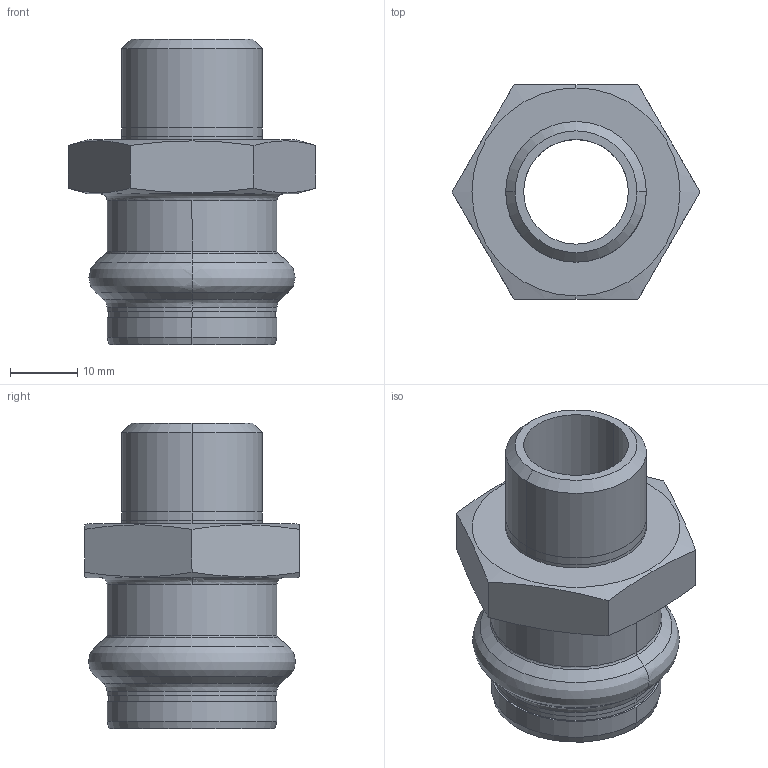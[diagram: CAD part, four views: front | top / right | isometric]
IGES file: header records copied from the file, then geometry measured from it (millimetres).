
Start section: Elysium IGES Interface
Global section: file name: C:\Users\Wallenburg\Desktop\3d modellen sudo\S-Pr VP\SP6243GV\6243GVW2212.igs; native system: CoCreate Modeling 17.00A  17-Jun-2010; preprocessor: CoCreate IGES_3D V2.2; author: Unknown; organization: Unknown; date: 20130124.135932; units: millimetre
Bounding box: 36.95 x 32 x 45.5 mm (x, y, z)
Volume: 11223.7 mm3; surface area: 8002.8 mm2
Topology: 1 solids, 1 shells, 60 faces, 140 edges, 84 vertices
Faces by surface type: bspline 60
